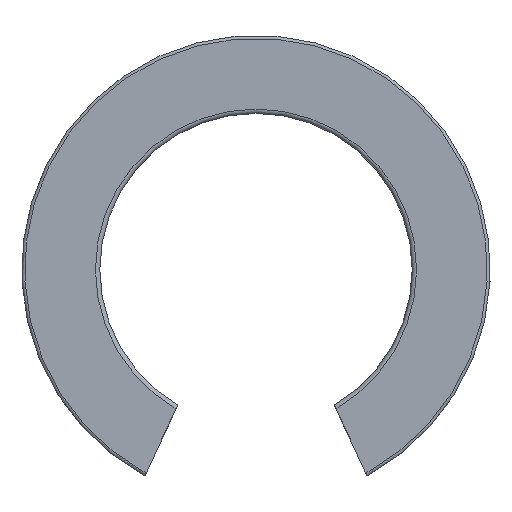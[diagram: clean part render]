
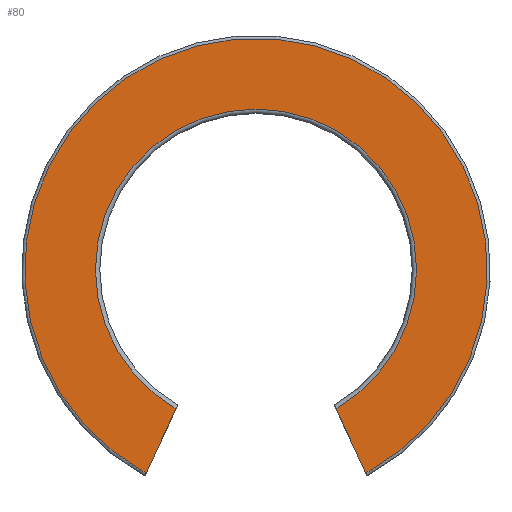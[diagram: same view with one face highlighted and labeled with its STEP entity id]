
A CAD part, left-side view. The second image highlights one B-rep face of the part: STEP entity #80.
In plain terms, the highlighted planar face has unit normal (-1, 0, 0).
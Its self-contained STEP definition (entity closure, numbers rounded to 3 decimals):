
#80=ADVANCED_FACE('',(#112),#113,.F.);
#112=FACE_OUTER_BOUND('',#164,.T.);
#113=PLANE('',#165);
#164=EDGE_LOOP('',(#261,#262,#263,#264));
#165=AXIS2_PLACEMENT_3D('',#265,#266,#267);
#261=ORIENTED_EDGE('',*,*,#428,.F.);
#262=ORIENTED_EDGE('',*,*,#454,.F.);
#263=ORIENTED_EDGE('',*,*,#462,.F.);
#264=ORIENTED_EDGE('',*,*,#463,.T.);
#265=CARTESIAN_POINT('',(0.0,29.619,0.0));
#266=DIRECTION('',(1.0,0.0,0.0));
#267=DIRECTION('',(0.0,0.0,-1.0));
#428=EDGE_CURVE('',#500,#501,#502,.T.);
#454=EDGE_CURVE('',#550,#500,#552,.T.);
#462=EDGE_CURVE('',#564,#550,#565,.T.);
#463=EDGE_CURVE('',#564,#501,#566,.T.);
#500=VERTEX_POINT('',#620);
#501=VERTEX_POINT('',#621);
#502=LINE('',#622,#623);
#550=VERTEX_POINT('',#710);
#552=CIRCLE('',#717,20.558);
#564=VERTEX_POINT('',#740);
#565=LINE('',#741,#742);
#566=CIRCLE('',#743,29.619);
#620=CARTESIAN_POINT('',(0.0,10.237,-17.828));
#621=CARTESIAN_POINT('',(0.0,14.076,-26.061));
#622=CARTESIAN_POINT('',(0.0,6.87,-10.608));
#623=VECTOR('',#820,1.0);
#710=CARTESIAN_POINT('',(0.0,-10.237,-17.828));
#717=AXIS2_PLACEMENT_3D('',#843,#844,#845);
#740=CARTESIAN_POINT('',(0.0,-14.076,-26.061));
#741=CARTESIAN_POINT('',(0.0,3.71,12.081));
#742=VECTOR('',#859,1.0);
#743=AXIS2_PLACEMENT_3D('',#860,#861,#862);
#820=DIRECTION('',(0.0,0.423,-0.906));
#843=CARTESIAN_POINT('',(0.0,0.0,0.0));
#844=DIRECTION('',(-1.0,0.0,0.0));
#845=DIRECTION('',(0.0,0.0,1.0));
#859=DIRECTION('',(0.0,0.423,0.906));
#860=CARTESIAN_POINT('',(0.0,0.0,0.0));
#861=DIRECTION('',(-1.0,0.0,0.0));
#862=DIRECTION('',(0.0,0.0,1.0));
